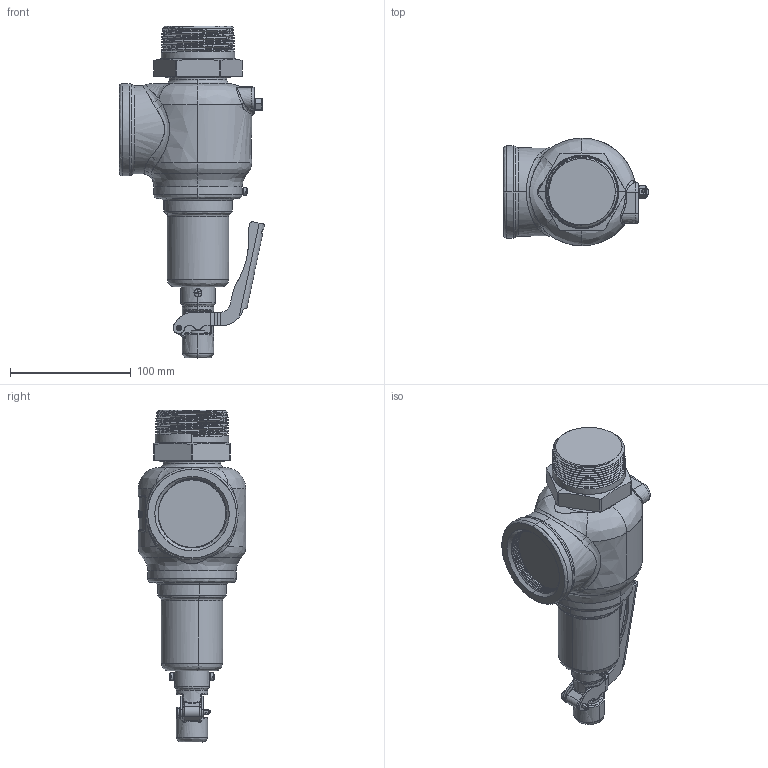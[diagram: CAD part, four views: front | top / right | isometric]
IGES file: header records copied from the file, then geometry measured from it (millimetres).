
Start section: SolidWorks IGES file using NURBS representation for surfaces
Global section: file name: C:\Design\Design\Aquatrol\Customer 3D Files\Series 740 Customer Files\G Orifice\Customer\Iges Files\Series 740 G 2000 x 2000 Open Lever.IGS; native system: SolidWorks 2015; preprocessor: SolidWorks 2015; author: Karl; date: 150515.102624; units: inch
Bounding box: 120.27 x 88.9 x 274.65 mm (x, y, z)
Surface area: 82894 mm2 (no closed solid volume)
Topology: 0 solids, 0 shells, 506 faces, 9495 edges, 9493 vertices
Faces by surface type: bspline 506
